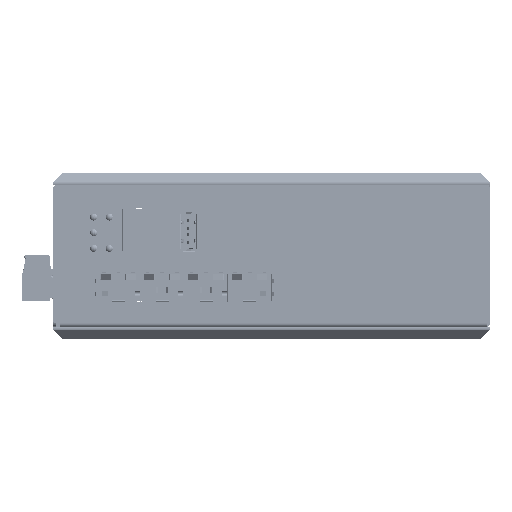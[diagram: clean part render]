
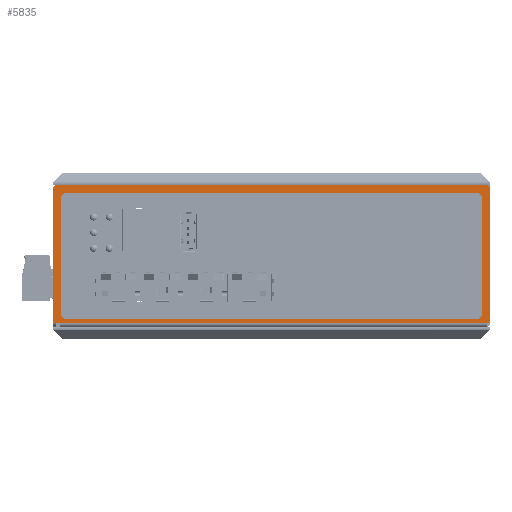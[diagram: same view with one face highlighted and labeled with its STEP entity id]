
A CAD part, front view. The second image highlights one B-rep face of the part: STEP entity #5835.
In plain terms, the highlighted planar face has unit normal (0, -1, 0).
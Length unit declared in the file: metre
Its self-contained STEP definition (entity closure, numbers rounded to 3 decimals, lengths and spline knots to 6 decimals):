
#5835 = ADVANCED_FACE( '', ( #15730, #15731 ), #15732, .T. );
#15730 = FACE_OUTER_BOUND( '', #32354, .T. );
#15731 = FACE_BOUND( '', #32355, .T. );
#15732 = PLANE( '', #32356 );
#32354 = EDGE_LOOP( '', ( #51895, #51896, #51897, #51898, #51899, #51900, #51901, #51902, #51903, #51904 ) );
#32355 = EDGE_LOOP( '', ( #51905, #51906, #51907, #51908, #51909, #51910, #51911, #51912 ) );
#32356 = AXIS2_PLACEMENT_3D( '', #51913, #51914, #51915 );
#51895 = ORIENTED_EDGE( '', *, *, #93222, .T. );
#51896 = ORIENTED_EDGE( '', *, *, #93223, .T. );
#51897 = ORIENTED_EDGE( '', *, *, #93224, .T. );
#51898 = ORIENTED_EDGE( '', *, *, #93225, .T. );
#51899 = ORIENTED_EDGE( '', *, *, #93226, .T. );
#51900 = ORIENTED_EDGE( '', *, *, #93227, .T. );
#51901 = ORIENTED_EDGE( '', *, *, #93228, .T. );
#51902 = ORIENTED_EDGE( '', *, *, #93229, .F. );
#51903 = ORIENTED_EDGE( '', *, *, #93230, .F. );
#51904 = ORIENTED_EDGE( '', *, *, #90575, .F. );
#51905 = ORIENTED_EDGE( '', *, *, #93231, .T. );
#51906 = ORIENTED_EDGE( '', *, *, #93232, .T. );
#51907 = ORIENTED_EDGE( '', *, *, #93233, .T. );
#51908 = ORIENTED_EDGE( '', *, *, #93234, .T. );
#51909 = ORIENTED_EDGE( '', *, *, #93235, .T. );
#51910 = ORIENTED_EDGE( '', *, *, #93236, .T. );
#51911 = ORIENTED_EDGE( '', *, *, #92121, .T. );
#51912 = ORIENTED_EDGE( '', *, *, #93237, .T. );
#51913 = CARTESIAN_POINT( '', ( 0., -0.049, 0. ) );
#51914 = DIRECTION( '', ( 0., -1., 0. ) );
#51915 = DIRECTION( '', ( 1., 0., 0. ) );
#90575 = EDGE_CURVE( '', #108209, #108212, #108213, .T. );
#92121 = EDGE_CURVE( '', #110981, #110979, #110982, .T. );
#93222 = EDGE_CURVE( '', #108209, #112939, #112940, .T. );
#93223 = EDGE_CURVE( '', #112939, #112941, #112942, .T. );
#93224 = EDGE_CURVE( '', #112941, #112943, #112944, .T. );
#93225 = EDGE_CURVE( '', #112943, #112945, #112946, .T. );
#93226 = EDGE_CURVE( '', #112945, #112947, #112948, .T. );
#93227 = EDGE_CURVE( '', #112947, #112949, #112950, .T. );
#93228 = EDGE_CURVE( '', #112949, #112951, #112952, .T. );
#93229 = EDGE_CURVE( '', #112953, #112951, #112954, .T. );
#93230 = EDGE_CURVE( '', #108212, #112953, #112955, .T. );
#93231 = EDGE_CURVE( '', #112956, #112957, #112958, .T. );
#93232 = EDGE_CURVE( '', #112957, #112959, #112960, .T. );
#93233 = EDGE_CURVE( '', #112959, #112961, #112962, .T. );
#93234 = EDGE_CURVE( '', #112961, #112963, #112964, .T. );
#93235 = EDGE_CURVE( '', #112963, #112965, #112966, .T. );
#93236 = EDGE_CURVE( '', #112965, #110981, #112967, .T. );
#93237 = EDGE_CURVE( '', #110979, #112956, #112968, .T. );
#108209 = VERTEX_POINT( '', #135291 );
#108212 = VERTEX_POINT( '', #135295 );
#108213 = LINE( '', #135296, #135297 );
#110979 = VERTEX_POINT( '', #140196 );
#110981 = VERTEX_POINT( '', #140199 );
#110982 = CIRCLE( '', #140200, 0.002 );
#112939 = VERTEX_POINT( '', #143918 );
#112940 = CIRCLE( '', #143919, 0.001 );
#112941 = VERTEX_POINT( '', #143920 );
#112942 = LINE( '', #143921, #143922 );
#112943 = VERTEX_POINT( '', #143923 );
#112944 = CIRCLE( '', #143924, 0.001 );
#112945 = VERTEX_POINT( '', #143925 );
#112946 = LINE( '', #143926, #143927 );
#112947 = VERTEX_POINT( '', #143928 );
#112948 = CIRCLE( '', #143929, 0.001 );
#112949 = VERTEX_POINT( '', #143930 );
#112950 = LINE( '', #143931, #143932 );
#112951 = VERTEX_POINT( '', #143933 );
#112952 = CIRCLE( '', #143934, 0.001 );
#112953 = VERTEX_POINT( '', #143935 );
#112954 = LINE( '', #143936, #143937 );
#112955 = LINE( '', #143938, #143939 );
#112956 = VERTEX_POINT( '', #143940 );
#112957 = VERTEX_POINT( '', #143941 );
#112958 = CIRCLE( '', #143942, 0.002 );
#112959 = VERTEX_POINT( '', #143943 );
#112960 = LINE( '', #143944, #143945 );
#112961 = VERTEX_POINT( '', #143946 );
#112962 = CIRCLE( '', #143947, 0.002 );
#112963 = VERTEX_POINT( '', #143948 );
#112964 = LINE( '', #143949, #143950 );
#112965 = VERTEX_POINT( '', #143951 );
#112966 = CIRCLE( '', #143952, 0.002 );
#112967 = LINE( '', #143953, #143954 );
#112968 = LINE( '', #143955, #143956 );
#135291 = CARTESIAN_POINT( '', ( 0.0695, -0.049, 0.0001 ) );
#135295 = CARTESIAN_POINT( '', ( 0.0694, -0.049, 0.0001 ) );
#135296 = CARTESIAN_POINT( '', ( 0.0695, -0.049, 0.0001 ) );
#135297 = VECTOR( '', #178676, 1. );
#140196 = CARTESIAN_POINT( '', ( -0.069, -0.049, 0.0035 ) );
#140199 = CARTESIAN_POINT( '', ( -0.067, -0.049, 0.0015 ) );
#140200 = AXIS2_PLACEMENT_3D( '', #180324, #180325, #180326 );
#143918 = CARTESIAN_POINT( '', ( 0.0705, -0.049, 0.0011 ) );
#143919 = AXIS2_PLACEMENT_3D( '', #181456, #181457, #181458 );
#143920 = CARTESIAN_POINT( '', ( 0.0705, -0.049, 0.044 ) );
#143921 = CARTESIAN_POINT( '', ( 0.0705, -0.049, 0.0011 ) );
#143922 = VECTOR( '', #181459, 1. );
#143923 = CARTESIAN_POINT( '', ( 0.0695, -0.049, 0.045 ) );
#143924 = AXIS2_PLACEMENT_3D( '', #181460, #181461, #181462 );
#143925 = CARTESIAN_POINT( '', ( -0.0705, -0.049, 0.045 ) );
#143926 = CARTESIAN_POINT( '', ( 0.0695, -0.049, 0.045 ) );
#143927 = VECTOR( '', #181463, 1. );
#143928 = CARTESIAN_POINT( '', ( -0.0715, -0.049, 0.044 ) );
#143929 = AXIS2_PLACEMENT_3D( '', #181464, #181465, #181466 );
#143930 = CARTESIAN_POINT( '', ( -0.0715, -0.049, 0.0011 ) );
#143931 = CARTESIAN_POINT( '', ( -0.0715, -0.049, 0.044 ) );
#143932 = VECTOR( '', #181467, 1. );
#143933 = CARTESIAN_POINT( '', ( -0.0705, -0.049, 0.0001 ) );
#143934 = AXIS2_PLACEMENT_3D( '', #181468, #181469, #181470 );
#143935 = CARTESIAN_POINT( '', ( -0.0694, -0.049, 0.0001 ) );
#143936 = CARTESIAN_POINT( '', ( -0.0694, -0.049, 0.0001 ) );
#143937 = VECTOR( '', #181471, 1. );
#143938 = CARTESIAN_POINT( '', ( 0.0694, -0.049, 0.0001 ) );
#143939 = VECTOR( '', #181472, 1. );
#143940 = CARTESIAN_POINT( '', ( -0.069, -0.049, 0.0405 ) );
#143941 = CARTESIAN_POINT( '', ( -0.067, -0.049, 0.0425 ) );
#143942 = AXIS2_PLACEMENT_3D( '', #181473, #181474, #181475 );
#143943 = CARTESIAN_POINT( '', ( 0.066, -0.049, 0.0425 ) );
#143944 = CARTESIAN_POINT( '', ( -0.067, -0.049, 0.0425 ) );
#143945 = VECTOR( '', #181476, 1. );
#143946 = CARTESIAN_POINT( '', ( 0.068, -0.049, 0.0405 ) );
#143947 = AXIS2_PLACEMENT_3D( '', #181477, #181478, #181479 );
#143948 = CARTESIAN_POINT( '', ( 0.068, -0.049, 0.0035 ) );
#143949 = CARTESIAN_POINT( '', ( 0.068, -0.049, 0.0405 ) );
#143950 = VECTOR( '', #181480, 1. );
#143951 = CARTESIAN_POINT( '', ( 0.066, -0.049, 0.0015 ) );
#143952 = AXIS2_PLACEMENT_3D( '', #181481, #181482, #181483 );
#143953 = CARTESIAN_POINT( '', ( 0.066, -0.049, 0.0015 ) );
#143954 = VECTOR( '', #181484, 1. );
#143955 = CARTESIAN_POINT( '', ( -0.069, -0.049, 0.0035 ) );
#143956 = VECTOR( '', #181485, 1. );
#178676 = DIRECTION( '', ( -1., 0., 0. ) );
#180324 = CARTESIAN_POINT( '', ( -0.067, -0.049, 0.0035 ) );
#180325 = DIRECTION( '', ( 0., 1., 0. ) );
#180326 = DIRECTION( '', ( 0., 0., -1. ) );
#181456 = CARTESIAN_POINT( '', ( 0.0695, -0.049, 0.0011 ) );
#181457 = DIRECTION( '', ( 0., -1., 0. ) );
#181458 = DIRECTION( '', ( 0., 0., -1. ) );
#181459 = DIRECTION( '', ( 0., 0., 1. ) );
#181460 = CARTESIAN_POINT( '', ( 0.0695, -0.049, 0.044 ) );
#181461 = DIRECTION( '', ( 0., -1., 0. ) );
#181462 = DIRECTION( '', ( 1., 0., 0. ) );
#181463 = DIRECTION( '', ( -1., 0., 0. ) );
#181464 = CARTESIAN_POINT( '', ( -0.0705, -0.049, 0.044 ) );
#181465 = DIRECTION( '', ( 0., -1., 0. ) );
#181466 = DIRECTION( '', ( 0., 0., 1. ) );
#181467 = DIRECTION( '', ( 0., 0., -1. ) );
#181468 = CARTESIAN_POINT( '', ( -0.0705, -0.049, 0.0011 ) );
#181469 = DIRECTION( '', ( 0., -1., 0. ) );
#181470 = DIRECTION( '', ( -1., 0., 0. ) );
#181471 = DIRECTION( '', ( -1., 0., 0. ) );
#181472 = DIRECTION( '', ( -1., 0., 0. ) );
#181473 = CARTESIAN_POINT( '', ( -0.067, -0.049, 0.0405 ) );
#181474 = DIRECTION( '', ( 0., 1., 0. ) );
#181475 = DIRECTION( '', ( -1., 0., 0. ) );
#181476 = DIRECTION( '', ( 1., 0., 0. ) );
#181477 = CARTESIAN_POINT( '', ( 0.066, -0.049, 0.0405 ) );
#181478 = DIRECTION( '', ( 0., 1., 0. ) );
#181479 = DIRECTION( '', ( 0., 0., 1. ) );
#181480 = DIRECTION( '', ( 0., 0., -1. ) );
#181481 = CARTESIAN_POINT( '', ( 0.066, -0.049, 0.0035 ) );
#181482 = DIRECTION( '', ( 0., 1., 0. ) );
#181483 = DIRECTION( '', ( 1., 0., 0. ) );
#181484 = DIRECTION( '', ( -1., 0., 0. ) );
#181485 = DIRECTION( '', ( 0., 0., 1. ) );
